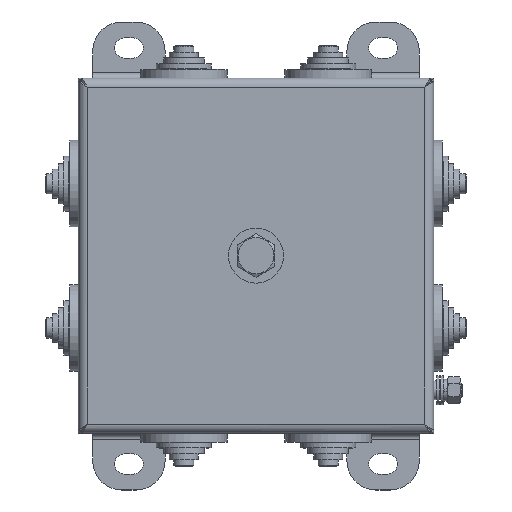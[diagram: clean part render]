
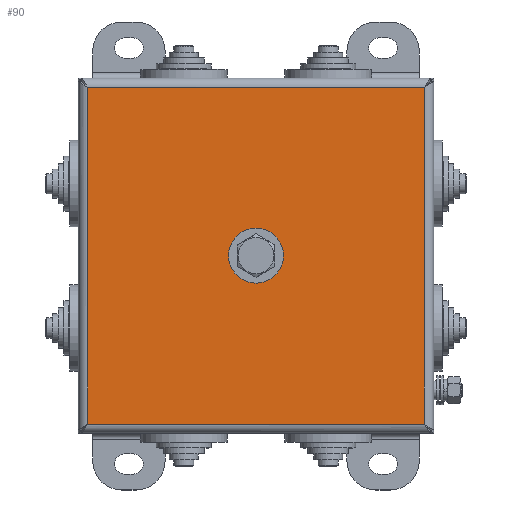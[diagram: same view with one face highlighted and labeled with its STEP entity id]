
A CAD part, top view. The second image highlights one B-rep face of the part: STEP entity #90.
In plain terms, the highlighted planar face has unit normal (0, 0, 1).
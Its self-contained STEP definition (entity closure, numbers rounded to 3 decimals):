
#90=ADVANCED_FACE('',(#14498,#14500),#14502,.T.);
#14498=FACE_BOUND('',#14499,.T.);
#14499=EDGE_LOOP('',(#26600,#26601,#26602,#26603));
#14500=FACE_BOUND('',#14501,.T.);
#14501=EDGE_LOOP('',(#26604));
#14502=PLANE('',#14503);
#14503=AXIS2_PLACEMENT_3D('',#14504,#14505,#14506);
#14504=CARTESIAN_POINT('',(0.,0.,61.7));
#14505=DIRECTION('',(0.,-0.,1.));
#14506=DIRECTION('',(0.,1.,0.));
#26600=ORIENTED_EDGE('',*,*,#36540,.T.);
#26601=ORIENTED_EDGE('',*,*,#36541,.T.);
#26602=ORIENTED_EDGE('',*,*,#36542,.T.);
#26603=ORIENTED_EDGE('',*,*,#36543,.T.);
#26604=ORIENTED_EDGE('',*,*,#36544,.F.);
#36540=EDGE_CURVE('',#40764,#40765,#40766,.T.);
#36541=EDGE_CURVE('',#40765,#40767,#40768,.T.);
#36542=EDGE_CURVE('',#40767,#40769,#40770,.T.);
#36543=EDGE_CURVE('',#40769,#40764,#40771,.T.);
#36544=EDGE_CURVE('',#40772,#40772,#40773,.T.);
#40764=VERTEX_POINT('',#47750);
#40765=VERTEX_POINT('',#47751);
#40766=LINE('',#47752,#47753);
#40767=VERTEX_POINT('',#47755);
#40768=LINE('',#47756,#47757);
#40769=VERTEX_POINT('',#47759);
#40770=LINE('',#47760,#47761);
#40771=LINE('',#47763,#47764);
#40772=VERTEX_POINT('',#47766);
#40773=CIRCLE('',#47767,8.5);
#47750=CARTESIAN_POINT('',(58.3,58.3,61.7));
#47751=CARTESIAN_POINT('',(-58.3,58.3,61.7));
#47752=CARTESIAN_POINT('',(58.3,58.3,61.7));
#47753=VECTOR('',#47754,1.);
#47754=DIRECTION('',(-1.,0.,0.));
#47755=CARTESIAN_POINT('',(-58.3,-58.3,61.7));
#47756=CARTESIAN_POINT('',(-58.3,58.3,61.7));
#47757=VECTOR('',#47758,1.);
#47758=DIRECTION('',(0.,-1.,0.));
#47759=CARTESIAN_POINT('',(58.3,-58.3,61.7));
#47760=CARTESIAN_POINT('',(-58.3,-58.3,61.7));
#47761=VECTOR('',#47762,1.);
#47762=DIRECTION('',(1.,0.,0.));
#47763=CARTESIAN_POINT('',(58.3,-58.3,61.7));
#47764=VECTOR('',#47765,1.);
#47765=DIRECTION('',(0.,1.,0.));
#47766=CARTESIAN_POINT('',(-8.5,0.,61.7));
#47767=AXIS2_PLACEMENT_3D('',#47768,#47769,#47770);
#47768=CARTESIAN_POINT('',(0.,0.,61.7));
#47769=DIRECTION('',(0.,-0.,1.));
#47770=DIRECTION('',(-1.,0.,0.));
